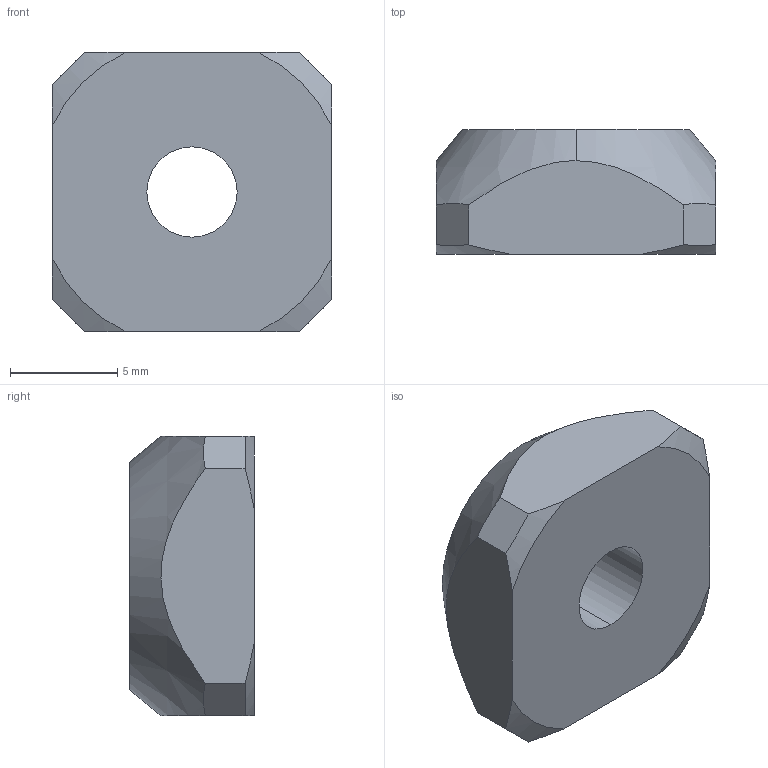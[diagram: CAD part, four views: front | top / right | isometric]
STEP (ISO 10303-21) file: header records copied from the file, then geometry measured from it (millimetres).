
FILE_DESCRIPTION (( 'STEP AP214' ), '1' );
FILE_NAME ('1.2007 Neliömutteri M5.STEP', '2025-09-05T10:12:53', ( '' ), ( '' ), 'SwSTEP 2.0', 'SolidWorks 2025', '' );
FILE_SCHEMA (( 'AUTOMOTIVE_DESIGN' ));
Length unit declared in the file: millimetre
Products named in the file (1): 1.2007 Neliömutteri M5
Bounding box: 13 x 5.8 x 13 mm (x, y, z)
Volume: 765.5 mm3; surface area: 577.9 mm2
Topology: 1 solids, 1 shells, 20 faces, 52 edges, 34 vertices
Faces by surface type: plane 10, cone 8, cylinder 2
Entity records: 743 total; most frequent: CARTESIAN_POINT 233, ORIENTED_EDGE 104, DIRECTION 84, EDGE_CURVE 52, VERTEX_POINT 34, AXIS2_PLACEMENT_3D 33, EDGE_LOOP 22, B_SPLINE_CURVE_WITH_KNOTS 22
